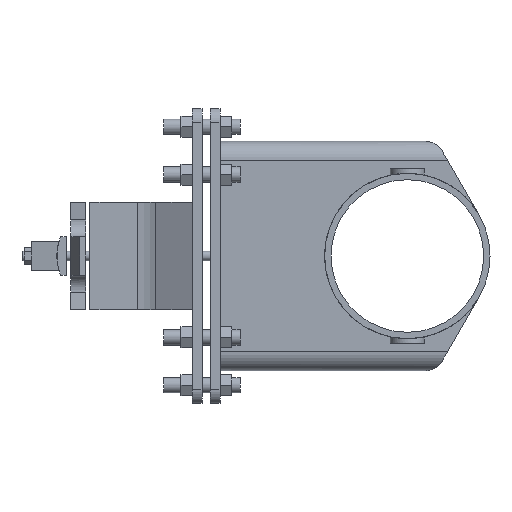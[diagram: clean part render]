
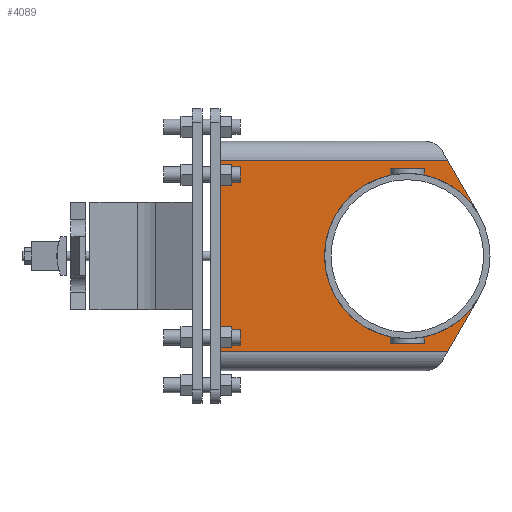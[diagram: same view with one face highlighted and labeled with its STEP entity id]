
A CAD part, left-side view. The second image highlights one B-rep face of the part: STEP entity #4089.
In plain terms, the highlighted planar face has unit normal (-1, 0, 0).
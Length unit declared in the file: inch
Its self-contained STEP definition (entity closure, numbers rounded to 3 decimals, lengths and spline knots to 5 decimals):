
#184=CIRCLE('',#4352,4.315);
#185=CIRCLE('',#4353,4.315);
#186=CIRCLE('',#4354,4.315);
#333=FACE_OUTER_BOUND('',#560,.T.);
#560=EDGE_LOOP('',(#2783,#2784,#2785,#2786,#2787,#2788,#2789,#2790,#2791,
#2792,#2793,#2794,#2795,#2796));
#891=LINE('',#6035,#1313);
#899=LINE('',#6065,#1321);
#909=LINE('',#6092,#1331);
#911=LINE('',#6096,#1333);
#912=LINE('',#6100,#1334);
#913=LINE('',#6102,#1335);
#914=LINE('',#6104,#1336);
#915=LINE('',#6108,#1337);
#916=LINE('',#6110,#1338);
#917=LINE('',#6112,#1339);
#918=LINE('',#6114,#1340);
#1313=VECTOR('',#4862,0.3937);
#1321=VECTOR('',#4892,0.3937);
#1331=VECTOR('',#4914,0.3937);
#1333=VECTOR('',#4918,0.3937);
#1334=VECTOR('',#4921,0.3937);
#1335=VECTOR('',#4922,0.3937);
#1336=VECTOR('',#4923,0.3937);
#1337=VECTOR('',#4926,0.3937);
#1338=VECTOR('',#4927,0.3937);
#1339=VECTOR('',#4928,0.3937);
#1340=VECTOR('',#4931,0.3937);
#1708=VERTEX_POINT('',#6033);
#1709=VERTEX_POINT('',#6034);
#1719=VERTEX_POINT('',#6062);
#1720=VERTEX_POINT('',#6064);
#1731=VERTEX_POINT('',#6091);
#1732=VERTEX_POINT('',#6095);
#1733=VERTEX_POINT('',#6097);
#1734=VERTEX_POINT('',#6099);
#1735=VERTEX_POINT('',#6101);
#1736=VERTEX_POINT('',#6103);
#1737=VERTEX_POINT('',#6105);
#1738=VERTEX_POINT('',#6107);
#1739=VERTEX_POINT('',#6109);
#1740=VERTEX_POINT('',#6111);
#2116=EDGE_CURVE('',#1708,#1709,#891,.T.);
#2131=EDGE_CURVE('',#1719,#1720,#899,.T.);
#2145=EDGE_CURVE('',#1731,#1720,#909,.T.);
#2147=EDGE_CURVE('',#1708,#1732,#911,.T.);
#2148=EDGE_CURVE('',#1733,#1732,#184,.T.);
#2149=EDGE_CURVE('',#1733,#1734,#912,.T.);
#2150=EDGE_CURVE('',#1734,#1735,#913,.T.);
#2151=EDGE_CURVE('',#1735,#1736,#914,.T.);
#2152=EDGE_CURVE('',#1737,#1736,#185,.T.);
#2153=EDGE_CURVE('',#1737,#1738,#915,.T.);
#2154=EDGE_CURVE('',#1738,#1739,#916,.T.);
#2155=EDGE_CURVE('',#1739,#1740,#917,.T.);
#2156=EDGE_CURVE('',#1731,#1740,#186,.T.);
#2157=EDGE_CURVE('',#1719,#1709,#918,.T.);
#2783=ORIENTED_EDGE('',*,*,#2116,.F.);
#2784=ORIENTED_EDGE('',*,*,#2147,.T.);
#2785=ORIENTED_EDGE('',*,*,#2148,.F.);
#2786=ORIENTED_EDGE('',*,*,#2149,.T.);
#2787=ORIENTED_EDGE('',*,*,#2150,.T.);
#2788=ORIENTED_EDGE('',*,*,#2151,.T.);
#2789=ORIENTED_EDGE('',*,*,#2152,.F.);
#2790=ORIENTED_EDGE('',*,*,#2153,.T.);
#2791=ORIENTED_EDGE('',*,*,#2154,.T.);
#2792=ORIENTED_EDGE('',*,*,#2155,.T.);
#2793=ORIENTED_EDGE('',*,*,#2156,.F.);
#2794=ORIENTED_EDGE('',*,*,#2145,.T.);
#2795=ORIENTED_EDGE('',*,*,#2131,.F.);
#2796=ORIENTED_EDGE('',*,*,#2157,.T.);
#3692=PLANE('',#4351);
#4089=ADVANCED_FACE('',(#333),#3692,.F.);
#4351=AXIS2_PLACEMENT_3D('',#6094,#4916,#4917);
#4352=AXIS2_PLACEMENT_3D('',#6098,#4919,#4920);
#4353=AXIS2_PLACEMENT_3D('',#6106,#4924,#4925);
#4354=AXIS2_PLACEMENT_3D('',#6113,#4929,#4930);
#4862=DIRECTION('',(0.,1.,0.));
#4892=DIRECTION('',(0.,-1.,0.));
#4914=DIRECTION('',(0.,0.5,0.866));
#4916=DIRECTION('center_axis',(1.,0.,0.));
#4917=DIRECTION('ref_axis',(0.,0.,-1.));
#4918=DIRECTION('',(0.,-0.5,0.866));
#4919=DIRECTION('center_axis',(-1.,0.,0.));
#4920=DIRECTION('ref_axis',(0.,1.,0.));
#4921=DIRECTION('',(0.,0.,-1.));
#4922=DIRECTION('',(0.,1.,0.));
#4923=DIRECTION('',(0.,0.,1.));
#4924=DIRECTION('center_axis',(-1.,0.,0.));
#4925=DIRECTION('ref_axis',(0.,1.,0.));
#4926=DIRECTION('',(0.,0.,1.));
#4927=DIRECTION('',(0.,-1.,0.));
#4928=DIRECTION('',(0.,0.,-1.));
#4929=DIRECTION('center_axis',(-1.,0.,0.));
#4930=DIRECTION('ref_axis',(0.,1.,0.));
#4931=DIRECTION('',(0.,0.,-1.));
#6033=CARTESIAN_POINT('',(-3.1,-2.10444,-4.985));
#6034=CARTESIAN_POINT('',(-3.1,9.78,-4.985));
#6035=CARTESIAN_POINT('',(-3.1,1.21469,-4.985));
#6062=CARTESIAN_POINT('',(-3.1,9.78,4.985));
#6064=CARTESIAN_POINT('',(-3.1,-2.10444,4.985));
#6065=CARTESIAN_POINT('',(-3.1,7.11824,4.985));
#6091=CARTESIAN_POINT('',(-3.1,-3.7369,2.1575));
#6092=CARTESIAN_POINT('',(-3.1,-3.7369,2.1575));
#6094=CARTESIAN_POINT('Origin',(-3.1,3.95648,0.));
#6095=CARTESIAN_POINT('',(-3.1,-3.7369,-2.1575));
#6096=CARTESIAN_POINT('',(-3.1,-1.52709,-5.985));
#6097=CARTESIAN_POINT('',(-3.1,-0.73022,-4.25276));
#6098=CARTESIAN_POINT('Origin',(-3.1,0.,0.));
#6099=CARTESIAN_POINT('',(-3.1,-0.73022,-4.556));
#6100=CARTESIAN_POINT('',(-3.1,-0.73022,0.));
#6101=CARTESIAN_POINT('',(-3.1,0.73022,-4.556));
#6102=CARTESIAN_POINT('',(-3.1,1.97824,-4.556));
#6103=CARTESIAN_POINT('',(-3.1,0.73022,-4.25276));
#6104=CARTESIAN_POINT('',(-3.1,0.73022,0.));
#6105=CARTESIAN_POINT('',(-3.1,0.73022,4.25276));
#6106=CARTESIAN_POINT('Origin',(-3.1,0.,0.));
#6107=CARTESIAN_POINT('',(-3.1,0.73022,4.556));
#6108=CARTESIAN_POINT('',(-3.1,0.73022,0.));
#6109=CARTESIAN_POINT('',(-3.1,-0.73022,4.556));
#6110=CARTESIAN_POINT('',(-3.1,1.97824,4.556));
#6111=CARTESIAN_POINT('',(-3.1,-0.73022,4.25276));
#6112=CARTESIAN_POINT('',(-3.1,-0.73022,0.));
#6113=CARTESIAN_POINT('Origin',(-3.1,0.,0.));
#6114=CARTESIAN_POINT('',(-3.1,9.78,0.));
